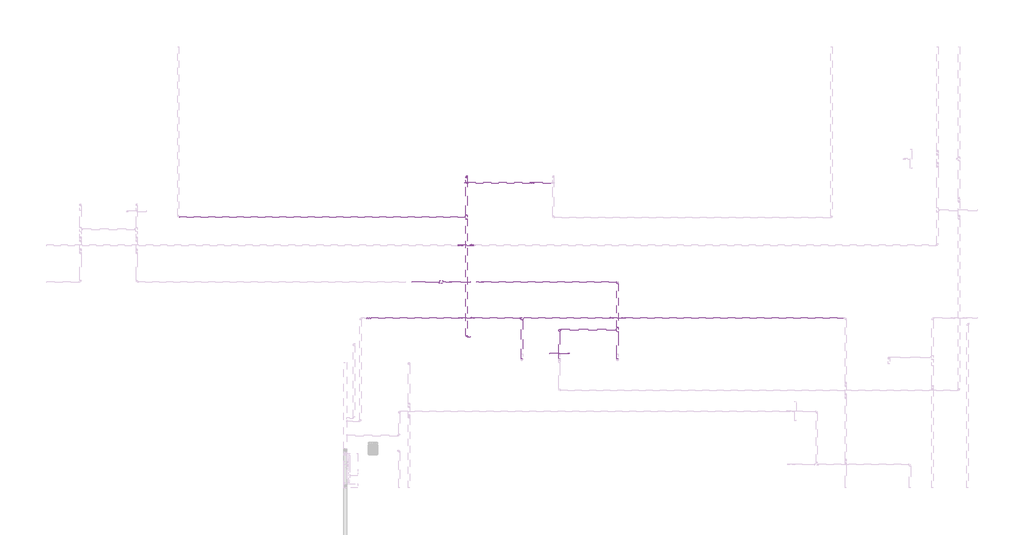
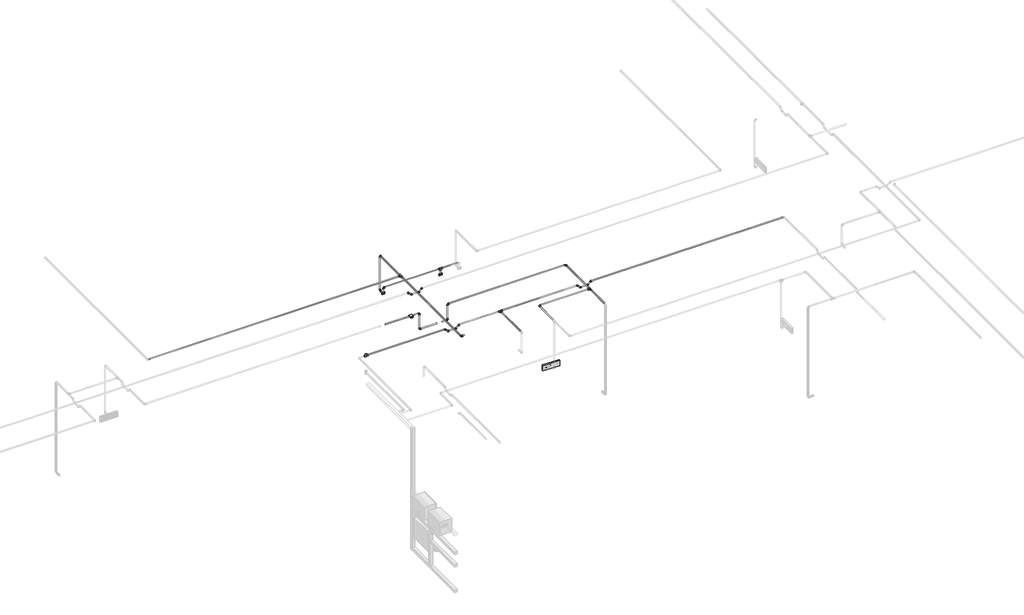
# One storey, part 21 of 40: 35 cable carrier segments, 27 cable carrier fittings, 2 alarms, 2 electric appliances.
"""IFC4 building model written with IfcOpenShell, lengths in millimetres."""

from ifc_helpers import new_model, si_unit, point, frame, frame_2d, origin, place, context, project, spatial, circle_curve, trimmed, segment, composite_curve, outline, extrude, transform, mapped, element, save
from components import alarm_4b7e8fd8, alarm_a2247946, cable_carrier_fitting_69f1a801, cable_carrier_fitting_8122f9af, cable_carrier_fitting_4b51b220, cable_carrier_fitting_71b1b563, cable_carrier_fitting_8fd13dfc, electric_appliance_5961a143

model = new_model("IFC4")

# Units and contexts
model_context = context("Model", 3, world=origin())
ifc_project = project(units=[si_unit("LENGTHUNIT", "METRE", prefix="MILLI")], contexts=[model_context])

# Site, building, storey
site = spatial("IfcSite", under=ifc_project)
building = spatial("IfcBuilding", under=site)
storey = spatial("IfcBuildingStorey", under=building, Name="1 этаж", Elevation=0.0)

# Alarms
placement = place(None, origin())
alarm_shape = alarm_4b7e8fd8(model_context)
element("IfcAlarm", 1, ObjectType="RBZ_Оповещатель_Световой_Рубеж_ОПОП1-R3(грань) : ОПОП 1-R3 \"Выход\"", at=placement, inside=storey, context=model_context, shape_type="MappedRepresentation", body=[
    mapped(alarm_shape, transform((-19837.3240021, 4024.6370105, 2300.0), x_axis=(-1.0, 0.0, 0.0), y_axis=(0.0, 0.0, 1.0), z_axis=(0.0, 1.0, 0.0))),
])
alarm_2_shape = alarm_a2247946(model_context)
element("IfcAlarm", 2, ObjectType="RBZ_ИзоляторШлейфа_Рубеж_ИЗ-1_прот.R3(плоскость) : ИЗ-1 прот.R3", at=placement, inside=storey, context=model_context, shape_type="MappedRepresentation", body=[
    mapped(alarm_2_shape, transform((-21669.8240021, 5139.5658748, 3200.75), x_axis=(1.0, 0.0, 0.0), y_axis=(0.0, 1.0, 0.0), z_axis=(0.0, 0.0, 1.0))),
])

# Cable carrier fittings
cable_carrier_fitting_shape = cable_carrier_fitting_69f1a801(model_context)
element("IfcCableCarrierFitting", 3, ObjectType="ADSK_Поворот_Минимальный размер : Неспецифицируемый", at=placement, inside=storey, context=model_context, shape_type="MappedRepresentation", body=[
    mapped(cable_carrier_fitting_shape, transform((-21523.5238077, 5139.5658748, 2891.5753772), x_axis=(-1.0, 0.0, 0.0), y_axis=(0.0, 0.0, 1.0), z_axis=(0.0, 1.0, 0.0))),
])
element("IfcCableCarrierFitting", 4, ObjectType="ADSK_Поворот_Минимальный размер : Неспецифицируемый", at=placement, inside=storey, context=model_context, shape_type="MappedRepresentation", body=[
    mapped(cable_carrier_fitting_shape, transform((-21523.5238077, 5139.5658748, 3190.0), x_axis=(0.0, 0.0, 1.0), y_axis=(-1.0, 0.0, 0.0), z_axis=(0.0, -1.0, 0.0))),
])
element("IfcCableCarrierFitting", 5, ObjectType="ADSK_Поворот_Минимальный размер : Неспецифицируемый", at=placement, inside=storey, context=model_context, shape_type="MappedRepresentation", body=[
    mapped(cable_carrier_fitting_shape, transform((-21026.1241965, 5139.5658748, 2891.5753772), x_axis=(1.0, 0.0, 0.0), y_axis=(0.0, 0.0, 1.0), z_axis=(0.0, -1.0, 0.0))),
])
element("IfcCableCarrierFitting", 6, ObjectType="ADSK_Поворот_Минимальный размер : Неспецифицируемый", at=placement, inside=storey, context=model_context, shape_type="MappedRepresentation", body=[
    mapped(cable_carrier_fitting_shape, transform((-18937.3240021, 5139.5658748, 3189.2500781), x_axis=(0.0, 1.0, 0.0), y_axis=(-0.9999999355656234, 0.0, 0.00035898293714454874), z_axis=(0.00035898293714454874, 0.0, 0.9999999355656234))),
])
element("IfcCableCarrierFitting", 7, ObjectType="ADSK_Поворот_Минимальный размер : Неспецифицируемый", at=placement, inside=storey, context=model_context, shape_type="MappedRepresentation", body=[
    mapped(cable_carrier_fitting_shape, transform((-21272.3240021, 6678.6370105, 2650.0), x_axis=(0.0, 0.0, 1.0), y_axis=(1.0, 0.0, 0.0), z_axis=(0.0, 1.0, 0.0))),
])
element("IfcCableCarrierFitting", 8, ObjectType="ADSK_Поворот_Минимальный размер : Неспецифицируемый", at=placement, inside=storey, context=model_context, shape_type="MappedRepresentation", body=[
    mapped(cable_carrier_fitting_shape, transform((-21272.3240021, 6778.8368161, 2534.0911237), x_axis=(0.0, 1.0, 0.0), y_axis=(0.0, 0.0, 1.0), z_axis=(1.0, 0.0, 0.0))),
])
element("IfcCableCarrierFitting", 9, ObjectType="ADSK_Поворот_Минимальный размер : Неспецифицируемый", at=placement, inside=storey, context=model_context, shape_type="MappedRepresentation", body=[
    mapped(cable_carrier_fitting_shape, transform((-21272.3240021, 6778.8368161, 3187.0), x_axis=(0.0, 0.0, 1.0), y_axis=(0.0, -1.0, 0.0), z_axis=(1.0, 0.0, 0.0))),
])
element("IfcCableCarrierFitting", 10, ObjectType="ADSK_Поворот_Минимальный размер : Неспецифицируемый", at=placement, inside=storey, context=model_context, shape_type="MappedRepresentation", body=[
    mapped(cable_carrier_fitting_shape, transform((-21272.3240021, 4289.6370105, 3187.0), x_axis=(0.0, -1.0, 0.0), y_axis=(1.0, 0.0, 0.0), z_axis=(0.0, 0.0, 1.0))),
])
cable_carrier_fitting_2_shape = cable_carrier_fitting_8122f9af(model_context)
element("IfcCableCarrierFitting", 11, ObjectType="ADSK_Поворот_Минимальный размер : Неспецифицируемый", at=placement, inside=storey, context=model_context, shape_type="MappedRepresentation", body=[
    mapped(cable_carrier_fitting_2_shape, transform((-21388.8962734, 5709.6370105, 3180.0), x_axis=(1.0, 0.0, 0.0), y_axis=(0.0, 0.0, -1.0), z_axis=(0.0, 1.0, 0.0))),
])
element("IfcCableCarrierFitting", 12, ObjectType="ADSK_Поворот_Минимальный размер : Неспецифицируемый", at=placement, inside=storey, context=model_context, shape_type="MappedRepresentation", body=[
    mapped(cable_carrier_fitting_2_shape, transform((-21338.8962734, 5709.6370105, 3130.0), x_axis=(0.707106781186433, 0.0, -0.7071067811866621), y_axis=(0.7071067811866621, 0.0, 0.707106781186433), z_axis=(0.0, -1.0, 0.0))),
])
element("IfcCableCarrierFitting", 13, ObjectType="ADSK_Поворот_Минимальный размер : Неспецифицируемый", at=placement, inside=storey, context=model_context, shape_type="MappedRepresentation", body=[
    mapped(cable_carrier_fitting_2_shape, transform((-21205.7517309, 5709.6370105, 3130.0), x_axis=(1.0, 0.0, 0.0), y_axis=(0.0, 0.0, 1.0), z_axis=(0.0, -1.0, 0.0))),
])
element("IfcCableCarrierFitting", 14, ObjectType="ADSK_Поворот_Минимальный размер : Неспецифицируемый", at=placement, inside=storey, context=model_context, shape_type="MappedRepresentation", body=[
    mapped(cable_carrier_fitting_2_shape, transform((-18870.7517309, 4582.0798551, 3130.0), x_axis=(-0.7071067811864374, 0.0, -0.7071067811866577), y_axis=(-0.7071067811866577, 0.0, 0.7071067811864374), z_axis=(0.0, 1.0, 0.0))),
])
element("IfcCableCarrierFitting", 15, ObjectType="ADSK_Поворот_Минимальный размер : Неспецифицируемый", at=placement, inside=storey, context=model_context, shape_type="MappedRepresentation", body=[
    mapped(cable_carrier_fitting_2_shape, transform((-19003.8962734, 4582.0798551, 3130.0), x_axis=(-1.0, 0.0, 0.0), y_axis=(0.0, 0.0, 1.0), z_axis=(0.0, 1.0, 0.0))),
])
element("IfcCableCarrierFitting", 16, ObjectType="ADSK_Поворот_Минимальный размер : Неспецифицируемый", at=placement, inside=storey, context=model_context, shape_type="MappedRepresentation", body=[
    mapped(cable_carrier_fitting_2_shape, transform((-19053.8962734, 4582.0798551, 3180.0), x_axis=(-0.707106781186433, 0.0, 0.7071067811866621), y_axis=(-0.7071067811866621, 0.0, -0.707106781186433), z_axis=(0.0, -1.0, 0.0))),
])
element("IfcCableCarrierFitting", 17, ObjectType="ADSK_Поворот_Минимальный размер : Неспецифицируемый", at=placement, inside=storey, context=model_context, shape_type="MappedRepresentation", body=[
    mapped(cable_carrier_fitting_2_shape, transform((-21155.7517309, 4582.0798551, 3180.0), x_axis=(-1.0, 0.0, 0.0), y_axis=(0.0, 0.0, -1.0), z_axis=(0.0, -1.0, 0.0))),
])
element("IfcCableCarrierFitting", 18, ObjectType="ADSK_Поворот_Минимальный размер : Неспецифицируемый", at=placement, inside=storey, context=model_context, shape_type="MappedRepresentation", body=[
    mapped(cable_carrier_fitting_2_shape, transform((-21205.7517309, 4582.0798551, 3130.0), x_axis=(-0.7071067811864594, 0.0, -0.7071067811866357), y_axis=(-0.7071067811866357, 0.0, 0.7071067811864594), z_axis=(0.0, 1.0, 0.0))),
])
element("IfcCableCarrierFitting", 19, ObjectType="ADSK_Поворот_Минимальный размер : Неспецифицируемый", at=placement, inside=storey, context=model_context, shape_type="MappedRepresentation", body=[
    mapped(cable_carrier_fitting_2_shape, transform((-21338.8962734, 4582.0798551, 3130.0), x_axis=(-1.0, 0.0, 0.0), y_axis=(0.0, 0.0, 1.0), z_axis=(0.0, 1.0, 0.0))),
])
element("IfcCableCarrierFitting", 20, ObjectType="ADSK_Поворот_Минимальный размер : Неспецифицируемый", at=placement, inside=storey, context=model_context, shape_type="MappedRepresentation", body=[
    mapped(cable_carrier_fitting_2_shape, transform((-21388.8962734, 4582.0798551, 3180.0), x_axis=(-0.7071067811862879, 0.0, 0.7071067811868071), y_axis=(-0.7071067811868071, 0.0, -0.7071067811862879), z_axis=(0.0, -1.0, 0.0))),
])
element("IfcCableCarrierFitting", 21, ObjectType="ADSK_Поворот_Минимальный размер : Неспецифицируемый", at=placement, inside=storey, context=model_context, shape_type="MappedRepresentation", body=[
    mapped(cable_carrier_fitting_2_shape, transform((-18820.7517309, 4582.0798551, 3180.0), x_axis=(0.7071067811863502, 0.0, 0.7071067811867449), y_axis=(0.7071067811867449, 0.0, -0.7071067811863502), z_axis=(0.0, 1.0, 0.0))),
])
element("IfcCableCarrierFitting", 22, ObjectType="ADSK_Поворот_Минимальный размер : Неспецифицируемый", at=placement, inside=storey, context=model_context, shape_type="MappedRepresentation", body=[
    mapped(cable_carrier_fitting_2_shape, transform((-21155.7517309, 5709.6370105, 3180.0), x_axis=(0.7071067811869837, 0.0, 0.7071067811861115), y_axis=(0.7071067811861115, 0.0, -0.7071067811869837), z_axis=(0.0, 1.0, 0.0))),
])
cable_carrier_fitting_3_shape = cable_carrier_fitting_4b51b220(model_context)
element("IfcCableCarrierFitting", 23, ObjectType="ADSK_Поворот_Минимальный размер : Неспецифицируемый", at=placement, inside=storey, context=model_context, shape_type="MappedRepresentation", body=[
    mapped(cable_carrier_fitting_3_shape, transform((-21026.1241965, 5139.5658748, 3190.0), x_axis=(0.0, 0.0, 1.0), y_axis=(1.0, 0.0, 0.0), z_axis=(0.0, 1.0, 0.0))),
])
cable_carrier_fitting_4_shape = cable_carrier_fitting_71b1b563(model_context)
element("IfcCableCarrierFitting", 24, ObjectType="ADSK_Поворот_Минимальный размер : Неспецифицируемый", at=placement, inside=storey, context=model_context, shape_type="MappedRepresentation", body=[
    mapped(cable_carrier_fitting_4_shape, transform((-19837.3240021, 4402.1370105, 3189.541104), x_axis=(-0.999999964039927, 0.0, 0.0002681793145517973), y_axis=(-4.464283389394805e-08, -0.9999999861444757, -0.00016646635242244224), z_axis=(0.0002681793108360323, -0.00016646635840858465, 0.9999999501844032))),
])
cable_carrier_fitting_5_shape = cable_carrier_fitting_8fd13dfc(model_context)
element("IfcCableCarrierFitting", 25, ObjectType="ADSK_Тройник : ПВХ", at=placement, inside=storey, context=model_context, shape_type="MappedRepresentation", body=[
    mapped(cable_carrier_fitting_5_shape, transform((-18937.3240021, 4402.1370105, 3189.3000027), x_axis=(0.0, -0.9999999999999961, -8.916462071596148e-08), y_axis=(0.9999999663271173, 2.313916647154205e-11, -0.00025951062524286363), z_axis=(0.00025951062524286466, -8.916461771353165e-08, 0.9999999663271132))),
])
element("IfcCableCarrierFitting", 26, ObjectType="ADSK_Тройник : ПВХ", at=placement, inside=storey, context=model_context, shape_type="MappedRepresentation", body=[
    mapped(cable_carrier_fitting_5_shape, transform((-20262.3240021, 6678.6370105, 2650.0), x_axis=(1.0, 0.0, 0.0), y_axis=(0.0, 0.0, 1.0), z_axis=(0.0, -1.0, 0.0))),
])
element("IfcCableCarrierFitting", 27, ObjectType="ADSK_Тройник : ПВХ", at=placement, inside=storey, context=model_context, shape_type="MappedRepresentation", body=[
    mapped(cable_carrier_fitting_5_shape, transform((-21272.3240021, 6147.38701, 3187.0), x_axis=(0.0, -1.0, 0.0), y_axis=(1.0, 0.0, 0.0), z_axis=(0.0, 0.0, 1.0))),
])
element("IfcCableCarrierFitting", 28, ObjectType="ADSK_Тройник : ПВХ", at=placement, inside=storey, context=model_context, shape_type="MappedRepresentation", body=[
    mapped(cable_carrier_fitting_5_shape, transform((-20414.8240021, 4582.0798551, 3180.0), x_axis=(1.0, 0.0, 0.0), y_axis=(0.0, 1.0, 0.0), z_axis=(0.0, 0.0, 1.0))),
])
element("IfcCableCarrierFitting", 29, ObjectType="ADSK_Тройник : ПВХ", at=placement, inside=storey, context=model_context, shape_type="MappedRepresentation", body=[
    mapped(cable_carrier_fitting_5_shape, transform((-22786.859707, 4582.0798551, 3180.0), x_axis=(-1.0, 0.0, 0.0), y_axis=(0.0, 0.0, -1.0), z_axis=(0.0, -1.0, 0.0))),
])

# Cable carrier segments
element("IfcCableCarrierSegment", 30, ObjectType="Гофрированная труба", at=placement, inside=storey, context=model_context, shape_type="SweptSolid", body=[
    extrude(outline(composite_curve([segment(trimmed(circle_curve(frame_2d((3189.3000053, -18937.3240021)), 10.0), [point((3189.2974102, -18927.3240024))], [point((3199.300005, -18937.321407))], False, "CARTESIAN"), True, "CONTINUOUS"), segment(trimmed(circle_curve(frame_2d((3189.3000053, -18937.3240021)), 10.0), [point((3199.300005, -18937.321407))], [point((3189.3026005, -18947.3240018))], False, "CARTESIAN"), True, "CONTINUOUS"), segment(trimmed(circle_curve(frame_2d((3189.3000053, -18937.3240021)), 10.0), [point((3189.3026005, -18947.3240018))], [point((3179.3000057, -18937.3265972))], False, "CARTESIAN"), True, "CONTINUOUS"), segment(trimmed(circle_curve(frame_2d((3189.3000053, -18937.3240021)), 10.0), [point((3179.3000057, -18937.3265972))], [point((3189.2974102, -18927.3240024))], False, "CARTESIAN"), True, "CONTINUOUS")], self_intersect=False)), frame((0.0, 4432.1370105, 0.0), z_axis=(0.0, 1.0, 0.0), x_axis=(0.0, 0.0, 1.0)), (0.0, 0.0, 1.0), 686.4288642),
])
element("IfcCableCarrierSegment", 31, ObjectType="Гофрированная труба", at=placement, inside=storey, context=model_context, shape_type="SweptSolid", body=[
    extrude(outline(composite_curve([segment(trimmed(circle_curve(frame_2d((5139.5658748, 3190.0)), 10.0), [point((5149.5658748, 3190.0))], [point((5139.5658748, 3180.0))], False, "CARTESIAN"), True, "CONTINUOUS"), segment(trimmed(circle_curve(frame_2d((5139.5658748, 3190.0)), 10.0), [point((5139.5658748, 3180.0))], [point((5129.5658748, 3190.0))], False, "CARTESIAN"), True, "CONTINUOUS"), segment(trimmed(circle_curve(frame_2d((5139.5658748, 3190.0)), 10.0), [point((5129.5658748, 3190.0))], [point((5139.5658748, 3200.0))], False, "CARTESIAN"), True, "CONTINUOUS"), segment(trimmed(circle_curve(frame_2d((5139.5658748, 3190.0)), 10.0), [point((5139.5658748, 3200.0))], [point((5149.5658748, 3190.0))], False, "CARTESIAN"), True, "CONTINUOUS")], self_intersect=False)), frame((-22123.3740021, 0.0, 0.0), z_axis=(1.0, 0.0, 0.0), x_axis=(0.0, 1.0, 0.0)), (0.0, 0.0, 1.0), 427.55),
])
element("IfcCableCarrierSegment", 32, ObjectType="Гофрированная труба", at=placement, inside=storey, context=model_context, shape_type="SweptSolid", body=[
    extrude(outline(composite_curve([segment(trimmed(circle_curve(frame_2d((5139.5658748, 3190.0)), 10.0), [point((5149.5658748, 3190.0))], [point((5139.5658748, 3180.0))], False, "CARTESIAN"), True, "CONTINUOUS"), segment(trimmed(circle_curve(frame_2d((5139.5658748, 3190.0)), 10.0), [point((5139.5658748, 3180.0))], [point((5129.5658748, 3190.0))], False, "CARTESIAN"), True, "CONTINUOUS"), segment(trimmed(circle_curve(frame_2d((5139.5658748, 3190.0)), 10.0), [point((5129.5658748, 3190.0))], [point((5139.5658748, 3200.0))], False, "CARTESIAN"), True, "CONTINUOUS"), segment(trimmed(circle_curve(frame_2d((5139.5658748, 3190.0)), 10.0), [point((5139.5658748, 3200.0))], [point((5149.5658748, 3190.0))], False, "CARTESIAN"), True, "CONTINUOUS")], self_intersect=False)), frame((-21643.8240021, 0.0, 0.0), z_axis=(1.0, 0.0, 0.0), x_axis=(0.0, 1.0, 0.0)), (0.0, 0.0, 1.0), 99.3001944),
])
element("IfcCableCarrierSegment", 33, ObjectType="Гофрированная труба", at=placement, inside=storey, context=model_context, shape_type="SweptSolid", body=[
    extrude(outline(composite_curve([segment(trimmed(circle_curve(frame_2d((-21523.5238077, 5139.5658748)), 10.0), [point((-21533.5238077, 5139.5658748))], [point((-21523.5238077, 5149.5658748))], False, "CARTESIAN"), True, "CONTINUOUS"), segment(trimmed(circle_curve(frame_2d((-21523.5238077, 5139.5658748)), 10.0), [point((-21523.5238077, 5149.5658748))], [point((-21513.5238077, 5139.5658748))], False, "CARTESIAN"), True, "CONTINUOUS"), segment(trimmed(circle_curve(frame_2d((-21523.5238077, 5139.5658748)), 10.0), [point((-21513.5238077, 5139.5658748))], [point((-21523.5238077, 5129.5658748))], False, "CARTESIAN"), True, "CONTINUOUS"), segment(trimmed(circle_curve(frame_2d((-21523.5238077, 5139.5658748)), 10.0), [point((-21523.5238077, 5129.5658748))], [point((-21533.5238077, 5139.5658748))], False, "CARTESIAN"), True, "CONTINUOUS")], self_intersect=False)), frame((0.0, 0.0, 2912.5753772), z_axis=(0.0, 0.0, 1.0), x_axis=(1.0, 0.0, 0.0)), (0.0, 0.0, 1.0), 256.4246228),
])
element("IfcCableCarrierSegment", 34, ObjectType="Гофрированная труба", at=placement, inside=storey, context=model_context, shape_type="SweptSolid", body=[
    extrude(outline(composite_curve([segment(trimmed(circle_curve(frame_2d((0.0, -10.0)), 10.0), [point((-10.0, -10.0))], [point((0.0, 0.0))], False, "CARTESIAN"), True, "CONTINUOUS"), segment(trimmed(circle_curve(frame_2d((0.0, -10.0)), 10.0), [point((0.0, 0.0))], [point((10.0, -10.0))], False, "CARTESIAN"), True, "CONTINUOUS"), segment(trimmed(circle_curve(frame_2d((0.0, -10.0)), 10.0), [point((10.0, -10.0))], [point((0.0, -20.0))], False, "CARTESIAN"), True, "CONTINUOUS"), segment(trimmed(circle_curve(frame_2d((0.0, -10.0)), 10.0), [point((0.0, -20.0))], [point((-10.0, -10.0))], False, "CARTESIAN"), True, "CONTINUOUS")], self_intersect=False)), frame((-18958.3275906, 5139.5658748, 3179.2576174), z_axis=(-0.9999999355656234, 0.0, 0.00035898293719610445), x_axis=(0.0, 1.0, 0.0)), (0.0, 0.0, 1.0), 2046.7930736),
])
element("IfcCableCarrierSegment", 35, ObjectType="Гофрированная труба", at=placement, inside=storey, context=model_context, shape_type="SweptSolid", body=[
    extrude(outline(composite_curve([segment(trimmed(circle_curve(frame_2d((5139.5658748, 2891.5753772)), 10.0), [point((5129.5658748, 2891.5753772))], [point((5139.5658748, 2901.5753772))], False, "CARTESIAN"), True, "CONTINUOUS"), segment(trimmed(circle_curve(frame_2d((5139.5658748, 2891.5753772)), 10.0), [point((5139.5658748, 2901.5753772))], [point((5149.5658748, 2891.5753772))], False, "CARTESIAN"), True, "CONTINUOUS"), segment(trimmed(circle_curve(frame_2d((5139.5658748, 2891.5753772)), 10.0), [point((5149.5658748, 2891.5753772))], [point((5139.5658748, 2881.5753772))], False, "CARTESIAN"), True, "CONTINUOUS"), segment(trimmed(circle_curve(frame_2d((5139.5658748, 2891.5753772)), 10.0), [point((5139.5658748, 2881.5753772))], [point((5129.5658748, 2891.5753772))], False, "CARTESIAN"), True, "CONTINUOUS")], self_intersect=False)), frame((-21123.3240021, 0.0, 0.0), z_axis=(1.0, 0.0, 0.0), x_axis=(0.0, 1.0, 0.0)), (0.0, 0.0, 1.0), 76.1998056),
])
element("IfcCableCarrierSegment", 36, ObjectType="Гофрированная труба", at=placement, inside=storey, context=model_context, shape_type="SweptSolid", body=[
    extrude(outline(composite_curve([segment(trimmed(circle_curve(frame_2d((-21026.1241965, 5139.5658748)), 10.0), [point((-21036.1241965, 5139.5658748))], [point((-21026.1241965, 5149.5658748))], False, "CARTESIAN"), True, "CONTINUOUS"), segment(trimmed(circle_curve(frame_2d((-21026.1241965, 5139.5658748)), 10.0), [point((-21026.1241965, 5149.5658748))], [point((-21016.1241965, 5139.5658748))], False, "CARTESIAN"), True, "CONTINUOUS"), segment(trimmed(circle_curve(frame_2d((-21026.1241965, 5139.5658748)), 10.0), [point((-21016.1241965, 5139.5658748))], [point((-21026.1241965, 5129.5658748))], False, "CARTESIAN"), True, "CONTINUOUS"), segment(trimmed(circle_curve(frame_2d((-21026.1241965, 5139.5658748)), 10.0), [point((-21026.1241965, 5129.5658748))], [point((-21036.1241965, 5139.5658748))], False, "CARTESIAN"), True, "CONTINUOUS")], self_intersect=False)), frame((0.0, 0.0, 2912.5753772), z_axis=(0.0, 0.0, 1.0), x_axis=(1.0, 0.0, 0.0)), (0.0, 0.0, 1.0), 256.4173674),
])
element("IfcCableCarrierSegment", 37, ObjectType="Гофрированная труба", at=placement, inside=storey, context=model_context, shape_type="SweptSolid", body=[
    extrude(outline(composite_curve([segment(trimmed(circle_curve(frame_2d((0.0, -10.0)), 10.0), [point((-10.0, -10.0))], [point((0.0, 0.0))], False, "CARTESIAN"), True, "CONTINUOUS"), segment(trimmed(circle_curve(frame_2d((0.0, -10.0)), 10.0), [point((0.0, 0.0))], [point((10.0, -10.0))], False, "CARTESIAN"), True, "CONTINUOUS"), segment(trimmed(circle_curve(frame_2d((0.0, -10.0)), 10.0), [point((10.0, -10.0))], [point((0.0, -19.9999999))], False, "CARTESIAN"), True, "CONTINUOUS"), segment(trimmed(circle_curve(frame_2d((0.0, -10.0)), 10.0), [point((0.0, -19.9999999))], [point((-10.0, -10.0))], False, "CARTESIAN"), True, "CONTINUOUS")], self_intersect=False)), frame((-18967.3266829, 4402.1370105, 3179.3077884), z_axis=(-0.999999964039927, 0.0, 0.0002681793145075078), x_axis=(0.0, 1.0, 0.0)), (0.0, 0.0, 1.0), 849.0000314),
])
element("IfcCableCarrierSegment", 38, ObjectType="Гофрированная труба", at=placement, inside=storey, context=model_context, shape_type="SweptSolid", body=[
    extrude(outline(composite_curve([segment(trimmed(circle_curve(frame_2d((5139.5658748, 2891.5753772)), 10.0), [point((5129.5658748, 2891.5753772))], [point((5139.5658748, 2901.5753772))], False, "CARTESIAN"), True, "CONTINUOUS"), segment(trimmed(circle_curve(frame_2d((5139.5658748, 2891.5753772)), 10.0), [point((5139.5658748, 2901.5753772))], [point((5149.5658748, 2891.5753772))], False, "CARTESIAN"), True, "CONTINUOUS"), segment(trimmed(circle_curve(frame_2d((5139.5658748, 2891.5753772)), 10.0), [point((5149.5658748, 2891.5753772))], [point((5139.5658748, 2881.5753772))], False, "CARTESIAN"), True, "CONTINUOUS"), segment(trimmed(circle_curve(frame_2d((5139.5658748, 2891.5753772)), 10.0), [point((5139.5658748, 2881.5753772))], [point((5129.5658748, 2891.5753772))], False, "CARTESIAN"), True, "CONTINUOUS")], self_intersect=False)), frame((-21502.5238077, 0.0, 0.0), z_axis=(1.0, 0.0, 0.0), x_axis=(0.0, 1.0, 0.0)), (0.0, 0.0, 1.0), 286.1998056),
])
element("IfcCableCarrierSegment", 39, ObjectType="Гофрированная труба", at=placement, inside=storey, context=model_context, shape_type="SweptSolid", body=[
    extrude(outline(composite_curve([segment(trimmed(circle_curve(frame_2d((0.0, 10.0)), 10.0), [point((0.0, 20.0))], [point((10.0000001, 10.0))], False, "CARTESIAN"), True, "CONTINUOUS"), segment(trimmed(circle_curve(frame_2d((0.0, 10.0)), 10.0), [point((10.0000001, 10.0))], [point((0.0, 0.0))], False, "CARTESIAN"), True, "CONTINUOUS"), segment(trimmed(circle_curve(frame_2d((0.0, 10.0)), 10.0), [point((0.0, 0.0))], [point((-10.0, 10.0))], False, "CARTESIAN"), True, "CONTINUOUS"), segment(trimmed(circle_curve(frame_2d((0.0, 10.0)), 10.0), [point((-10.0, 10.0))], [point((0.0, 20.0))], False, "CARTESIAN"), True, "CONTINUOUS")], self_intersect=False)), frame((-19847.3240021, 3957.4372042, 3189.4423893), z_axis=(0.0, 0.9999999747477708, 0.00022473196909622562), x_axis=(0.0, -0.00022473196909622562, 0.9999999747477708)), (0.0, 0.0, 1.0), 423.6998165),
])
element("IfcCableCarrierSegment", 40, ObjectType="Гофрированная труба", at=placement, inside=storey, context=model_context, shape_type="SweptSolid", body=[
    extrude(outline(composite_curve([segment(trimmed(circle_curve(frame_2d((-21272.3240021, 6678.6370105)), 10.0), [point((-21282.3240021, 6678.6370105))], [point((-21272.3240021, 6688.6370105))], False, "CARTESIAN"), True, "CONTINUOUS"), segment(trimmed(circle_curve(frame_2d((-21272.3240021, 6678.6370105)), 10.0), [point((-21272.3240021, 6688.6370105))], [point((-21262.3240021, 6678.6370105))], False, "CARTESIAN"), True, "CONTINUOUS"), segment(trimmed(circle_curve(frame_2d((-21272.3240021, 6678.6370105)), 10.0), [point((-21262.3240021, 6678.6370105))], [point((-21272.3240021, 6668.6370105))], False, "CARTESIAN"), True, "CONTINUOUS"), segment(trimmed(circle_curve(frame_2d((-21272.3240021, 6678.6370105)), 10.0), [point((-21272.3240021, 6668.6370105))], [point((-21282.3240021, 6678.6370105))], False, "CARTESIAN"), True, "CONTINUOUS")], self_intersect=False)), frame((0.0, 0.0, 2563.1207114), z_axis=(0.0, 0.0, 1.0), x_axis=(1.0, 0.0, 0.0)), (0.0, 0.0, 1.0), 65.8792886),
])
element("IfcCableCarrierSegment", 41, ObjectType="Гофрированная труба", at=placement, inside=storey, context=model_context, shape_type="SweptSolid", body=[
    extrude(outline(composite_curve([segment(trimmed(circle_curve(frame_2d((-20262.3240021, 6678.6370105)), 10.0), [point((-20272.3240021, 6678.6370105))], [point((-20262.3240021, 6688.6370105))], False, "CARTESIAN"), True, "CONTINUOUS"), segment(trimmed(circle_curve(frame_2d((-20262.3240021, 6678.6370105)), 10.0), [point((-20262.3240021, 6688.6370105))], [point((-20252.3240021, 6678.6370105))], False, "CARTESIAN"), True, "CONTINUOUS"), segment(trimmed(circle_curve(frame_2d((-20262.3240021, 6678.6370105)), 10.0), [point((-20252.3240021, 6678.6370105))], [point((-20262.3240021, 6668.6370105))], False, "CARTESIAN"), True, "CONTINUOUS"), segment(trimmed(circle_curve(frame_2d((-20262.3240021, 6678.6370105)), 10.0), [point((-20262.3240021, 6668.6370105))], [point((-20272.3240021, 6678.6370105))], False, "CARTESIAN"), True, "CONTINUOUS")], self_intersect=False)), frame((0.0, 0.0, 2563.1207114), z_axis=(0.0, 0.0, 1.0), x_axis=(1.0, 0.0, 0.0)), (0.0, 0.0, 1.0), 56.8792886),
])
element("IfcCableCarrierSegment", 42, ObjectType="Гофрированная труба", at=placement, inside=storey, context=model_context, shape_type="SweptSolid", body=[
    extrude(outline(composite_curve([segment(trimmed(circle_curve(frame_2d((6678.6370105, 2650.0)), 10.0), [point((6688.6370105, 2650.0))], [point((6678.6370105, 2640.0))], False, "CARTESIAN"), True, "CONTINUOUS"), segment(trimmed(circle_curve(frame_2d((6678.6370105, 2650.0)), 10.0), [point((6678.6370105, 2640.0))], [point((6668.6370105, 2650.0))], False, "CARTESIAN"), True, "CONTINUOUS"), segment(trimmed(circle_curve(frame_2d((6678.6370105, 2650.0)), 10.0), [point((6668.6370105, 2650.0))], [point((6678.6370105, 2660.0))], False, "CARTESIAN"), True, "CONTINUOUS"), segment(trimmed(circle_curve(frame_2d((6678.6370105, 2650.0)), 10.0), [point((6678.6370105, 2660.0))], [point((6688.6370105, 2650.0))], False, "CARTESIAN"), True, "CONTINUOUS")], self_intersect=False)), frame((-21251.3240021, 0.0, 0.0), z_axis=(1.0, 0.0, 0.0), x_axis=(0.0, 1.0, 0.0)), (0.0, 0.0, 1.0), 959.0),
])
element("IfcCableCarrierSegment", 43, ObjectType="Гофрированная труба", at=placement, inside=storey, context=model_context, shape_type="SweptSolid", body=[
    extrude(outline(composite_curve([segment(trimmed(circle_curve(frame_2d((6678.6370105, 2650.0)), 10.0), [point((6688.6370105, 2650.0))], [point((6678.6370105, 2640.0))], False, "CARTESIAN"), True, "CONTINUOUS"), segment(trimmed(circle_curve(frame_2d((6678.6370105, 2650.0)), 10.0), [point((6678.6370105, 2640.0))], [point((6668.6370105, 2650.0))], False, "CARTESIAN"), True, "CONTINUOUS"), segment(trimmed(circle_curve(frame_2d((6678.6370105, 2650.0)), 10.0), [point((6668.6370105, 2650.0))], [point((6678.6370105, 2660.0))], False, "CARTESIAN"), True, "CONTINUOUS"), segment(trimmed(circle_curve(frame_2d((6678.6370105, 2650.0)), 10.0), [point((6678.6370105, 2660.0))], [point((6688.6370105, 2650.0))], False, "CARTESIAN"), True, "CONTINUOUS")], self_intersect=False)), frame((-20232.3240021, 0.0, 0.0), z_axis=(1.0, 0.0, 0.0), x_axis=(0.0, 1.0, 0.0)), (0.0, 0.0, 1.0), 279.0),
])
element("IfcCableCarrierSegment", 44, ObjectType="Гофрированная труба", at=placement, inside=storey, context=model_context, shape_type="SweptSolid", body=[
    extrude(outline(composite_curve([segment(trimmed(circle_curve(frame_2d((3187.0, -21272.3240021)), 10.0), [point((3187.0, -21282.3240021))], [point((3177.0, -21272.3240021))], False, "CARTESIAN"), True, "CONTINUOUS"), segment(trimmed(circle_curve(frame_2d((3187.0, -21272.3240021)), 10.0), [point((3177.0, -21272.3240021))], [point((3187.0, -21262.3240021))], False, "CARTESIAN"), True, "CONTINUOUS"), segment(trimmed(circle_curve(frame_2d((3187.0, -21272.3240021)), 10.0), [point((3187.0, -21262.3240021))], [point((3197.0, -21272.3240021))], False, "CARTESIAN"), True, "CONTINUOUS"), segment(trimmed(circle_curve(frame_2d((3187.0, -21272.3240021)), 10.0), [point((3197.0, -21272.3240021))], [point((3187.0, -21282.3240021))], False, "CARTESIAN"), True, "CONTINUOUS")], self_intersect=False)), frame((0.0, 4310.6370105, 0.0), z_axis=(0.0, 1.0, 0.0), x_axis=(0.0, 0.0, 1.0)), (0.0, 0.0, 1.0), 1806.7499995),
])
element("IfcCableCarrierSegment", 45, ObjectType="Гофрированная труба", at=placement, inside=storey, context=model_context, shape_type="SweptSolid", body=[
    extrude(outline(composite_curve([segment(trimmed(circle_curve(frame_2d((2534.0911237, -21272.3240021)), 10.0), [point((2534.0911237, -21262.3240021))], [point((2544.0911237, -21272.3240021))], False, "CARTESIAN"), True, "CONTINUOUS"), segment(trimmed(circle_curve(frame_2d((2534.0911237, -21272.3240021)), 10.0), [point((2544.0911237, -21272.3240021))], [point((2534.0911237, -21282.3240021))], False, "CARTESIAN"), True, "CONTINUOUS"), segment(trimmed(circle_curve(frame_2d((2534.0911237, -21272.3240021)), 10.0), [point((2534.0911237, -21282.3240021))], [point((2524.0911237, -21272.3240021))], False, "CARTESIAN"), True, "CONTINUOUS"), segment(trimmed(circle_curve(frame_2d((2534.0911237, -21272.3240021)), 10.0), [point((2524.0911237, -21272.3240021))], [point((2534.0911237, -21262.3240021))], False, "CARTESIAN"), True, "CONTINUOUS")], self_intersect=False)), frame((0.0, 6681.6370105, 0.0), z_axis=(0.0, 1.0, 0.0), x_axis=(0.0, 0.0, 1.0)), (0.0, 0.0, 1.0), 76.1998056),
])
element("IfcCableCarrierSegment", 46, ObjectType="Гофрированная труба", at=placement, inside=storey, context=model_context, shape_type="SweptSolid", body=[
    extrude(outline(composite_curve([segment(trimmed(circle_curve(frame_2d((-21272.3240021, 6778.8368161)), 10.0), [point((-21282.3240021, 6778.8368161))], [point((-21272.3240021, 6788.8368161))], False, "CARTESIAN"), True, "CONTINUOUS"), segment(trimmed(circle_curve(frame_2d((-21272.3240021, 6778.8368161)), 10.0), [point((-21272.3240021, 6788.8368161))], [point((-21262.3240021, 6778.8368161))], False, "CARTESIAN"), True, "CONTINUOUS"), segment(trimmed(circle_curve(frame_2d((-21272.3240021, 6778.8368161)), 10.0), [point((-21262.3240021, 6778.8368161))], [point((-21272.3240021, 6768.8368161))], False, "CARTESIAN"), True, "CONTINUOUS"), segment(trimmed(circle_curve(frame_2d((-21272.3240021, 6778.8368161)), 10.0), [point((-21272.3240021, 6768.8368161))], [point((-21282.3240021, 6778.8368161))], False, "CARTESIAN"), True, "CONTINUOUS")], self_intersect=False)), frame((0.0, 0.0, 2555.0911237), z_axis=(0.0, 0.0, 1.0), x_axis=(1.0, 0.0, 0.0)), (0.0, 0.0, 1.0), 610.9088763),
])
element("IfcCableCarrierSegment", 47, ObjectType="Гофрированная труба", at=placement, inside=storey, context=model_context, shape_type="SweptSolid", body=[
    extrude(outline(composite_curve([segment(trimmed(circle_curve(frame_2d((6147.38701, 3187.0)), 10.0), [point((6137.38701, 3187.0))], [point((6147.38701, 3197.0))], False, "CARTESIAN"), True, "CONTINUOUS"), segment(trimmed(circle_curve(frame_2d((6147.38701, 3187.0)), 10.0), [point((6147.38701, 3197.0))], [point((6157.38701, 3187.0))], False, "CARTESIAN"), True, "CONTINUOUS"), segment(trimmed(circle_curve(frame_2d((6147.38701, 3187.0)), 10.0), [point((6157.38701, 3187.0))], [point((6147.38701, 3177.0))], False, "CARTESIAN"), True, "CONTINUOUS"), segment(trimmed(circle_curve(frame_2d((6147.38701, 3187.0)), 10.0), [point((6147.38701, 3177.0))], [point((6137.38701, 3187.0))], False, "CARTESIAN"), True, "CONTINUOUS")], self_intersect=False)), frame((-25716.3231226, 0.0, 0.0), z_axis=(1.0, 0.0, 0.0), x_axis=(0.0, 1.0, 0.0)), (0.0, 0.0, 1.0), 4413.9991205),
])
element("IfcCableCarrierSegment", 48, ObjectType="Гофрированная труба", at=placement, inside=storey, context=model_context, shape_type="SweptSolid", body=[
    extrude(outline(composite_curve([segment(trimmed(circle_curve(frame_2d((0.0, -10.0)), 10.0), [point((-10.0, -10.0))], [point((0.0, 0.0))], False, "CARTESIAN"), True, "CONTINUOUS"), segment(trimmed(circle_curve(frame_2d((0.0, -10.0)), 10.0), [point((0.0, 0.0))], [point((10.0, -10.0))], False, "CARTESIAN"), True, "CONTINUOUS"), segment(trimmed(circle_curve(frame_2d((0.0, -10.0)), 10.0), [point((10.0, -10.0))], [point((0.0, -20.0))], False, "CARTESIAN"), True, "CONTINUOUS"), segment(trimmed(circle_curve(frame_2d((0.0, -10.0)), 10.0), [point((0.0, -20.0))], [point((-10.0, -10.0))], False, "CARTESIAN"), True, "CONTINUOUS")], self_intersect=False)), frame((-21251.3240021, 4289.6370105, 3177.0), z_axis=(1.0, 0.0, 1.2994405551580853e-12), x_axis=(0.0, -1.0, 0.0)), (0.0, 0.0, 1.0), 31.55),
])
element("IfcCableCarrierSegment", 49, ObjectType="Гофрированная труба", at=placement, inside=storey, context=model_context, shape_type="SweptSolid", body=[
    extrude(outline(composite_curve([segment(trimmed(circle_curve(frame_2d((3187.0, -21272.3240021)), 10.0), [point((3187.0, -21282.3240021))], [point((3177.0, -21272.3240021))], False, "CARTESIAN"), True, "CONTINUOUS"), segment(trimmed(circle_curve(frame_2d((3187.0, -21272.3240021)), 10.0), [point((3177.0, -21272.3240021))], [point((3187.0, -21262.3240021))], False, "CARTESIAN"), True, "CONTINUOUS"), segment(trimmed(circle_curve(frame_2d((3187.0, -21272.3240021)), 10.0), [point((3187.0, -21262.3240021))], [point((3197.0, -21272.3240021))], False, "CARTESIAN"), True, "CONTINUOUS"), segment(trimmed(circle_curve(frame_2d((3187.0, -21272.3240021)), 10.0), [point((3197.0, -21272.3240021))], [point((3187.0, -21282.3240021))], False, "CARTESIAN"), True, "CONTINUOUS")], self_intersect=False)), frame((0.0, 6177.38701, 0.0), z_axis=(0.0, 1.0, 0.0), x_axis=(0.0, 0.0, 1.0)), (0.0, 0.0, 1.0), 580.4498061),
])
element("IfcCableCarrierSegment", 50, ObjectType="Гофрированная труба", at=placement, inside=storey, context=model_context, shape_type="SweptSolid", body=[
    extrude(outline(composite_curve([segment(trimmed(circle_curve(frame_2d((0.0, 10.0)), 10.0), [point((-10.0, 10.0))], [point((0.0, 20.0))], False, "CARTESIAN"), True, "CONTINUOUS"), segment(trimmed(circle_curve(frame_2d((0.0, 10.0)), 10.0), [point((0.0, 20.0))], [point((10.0, 10.0))], False, "CARTESIAN"), True, "CONTINUOUS"), segment(trimmed(circle_curve(frame_2d((0.0, 10.0)), 10.0), [point((10.0, 10.0))], [point((0.0, 0.0))], False, "CARTESIAN"), True, "CONTINUOUS"), segment(trimmed(circle_curve(frame_2d((0.0, 10.0)), 10.0), [point((0.0, 0.0))], [point((-10.0, 10.0))], False, "CARTESIAN"), True, "CONTINUOUS")], self_intersect=False)), frame((-21329.6120021, 5709.6370105, 3120.0), z_axis=(1.0, 0.0, 4.764615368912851e-12), x_axis=(0.0, 1.0, 0.0)), (0.0, 0.0, 1.0), 114.576),
])
element("IfcCableCarrierSegment", 51, ObjectType="Гофрированная труба", at=placement, inside=storey, context=model_context, shape_type="SweptSolid", body=[
    extrude(outline(composite_curve([segment(trimmed(circle_curve(frame_2d((0.0, -10.0)), 10.0), [point((0.0, -20.0))], [point((-10.0000001, -10.0))], False, "CARTESIAN"), True, "CONTINUOUS"), segment(trimmed(circle_curve(frame_2d((0.0, -10.0)), 10.0), [point((-10.0000001, -10.0))], [point((0.0, 0.0))], False, "CARTESIAN"), True, "CONTINUOUS"), segment(trimmed(circle_curve(frame_2d((0.0, -10.0)), 10.0), [point((0.0, 0.0))], [point((10.0, -10.0))], False, "CARTESIAN"), True, "CONTINUOUS"), segment(trimmed(circle_curve(frame_2d((0.0, -10.0)), 10.0), [point((10.0, -10.0))], [point((0.0, -20.0))], False, "CARTESIAN"), True, "CONTINUOUS")], self_intersect=False)), frame((-21345.4612445, 5719.6370105, 3136.5649712), z_axis=(-0.7071067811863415, 0.0, 0.7071067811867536), x_axis=(0.7071067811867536, 0.0, 0.7071067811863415)), (0.0, 0.0, 1.0), 52.1421356),
])
element("IfcCableCarrierSegment", 52, ObjectType="Гофрированная труба", at=placement, inside=storey, context=model_context, shape_type="SweptSolid", body=[
    extrude(outline(composite_curve([segment(trimmed(circle_curve(frame_2d((0.0, 10.0)), 10.0), [point((0.0, 0.0))], [point((-10.0, 10.0))], False, "CARTESIAN"), True, "CONTINUOUS"), segment(trimmed(circle_curve(frame_2d((0.0, 10.0)), 10.0), [point((-10.0, 10.0))], [point((0.0, 20.0))], False, "CARTESIAN"), True, "CONTINUOUS"), segment(trimmed(circle_curve(frame_2d((0.0, 10.0)), 10.0), [point((0.0, 20.0))], [point((10.0000001, 10.0))], False, "CARTESIAN"), True, "CONTINUOUS"), segment(trimmed(circle_curve(frame_2d((0.0, 10.0)), 10.0), [point((10.0000001, 10.0))], [point((0.0, 0.0))], False, "CARTESIAN"), True, "CONTINUOUS")], self_intersect=False)), frame((-21199.1867597, 5699.6370105, 3136.5649712), z_axis=(0.7071067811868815, 0.0, 0.7071067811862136), x_axis=(0.7071067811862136, 0.0, -0.7071067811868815)), (0.0, 0.0, 1.0), 52.1421356),
])
element("IfcCableCarrierSegment", 53, ObjectType="Гофрированная труба", at=placement, inside=storey, context=model_context, shape_type="SweptSolid", body=[
    extrude(outline(composite_curve([segment(trimmed(circle_curve(frame_2d((4582.0798551, 3130.0)), 10.0), [point((4592.0798551, 3130.0))], [point((4582.0798551, 3120.0))], False, "CARTESIAN"), True, "CONTINUOUS"), segment(trimmed(circle_curve(frame_2d((4582.0798551, 3130.0)), 10.0), [point((4582.0798551, 3120.0))], [point((4572.0798551, 3130.0))], False, "CARTESIAN"), True, "CONTINUOUS"), segment(trimmed(circle_curve(frame_2d((4582.0798551, 3130.0)), 10.0), [point((4572.0798551, 3130.0))], [point((4582.0798551, 3140.0))], False, "CARTESIAN"), True, "CONTINUOUS"), segment(trimmed(circle_curve(frame_2d((4582.0798551, 3130.0)), 10.0), [point((4582.0798551, 3140.0))], [point((4592.0798551, 3130.0))], False, "CARTESIAN"), True, "CONTINUOUS")], self_intersect=False)), frame((-21329.6120021, 0.0, 0.0), z_axis=(1.0, 0.0, 0.0), x_axis=(0.0, 1.0, 0.0)), (0.0, 0.0, 1.0), 114.576),
])
element("IfcCableCarrierSegment", 54, ObjectType="Гофрированная труба", at=placement, inside=storey, context=model_context, shape_type="SweptSolid", body=[
    extrude(outline(composite_curve([segment(trimmed(circle_curve(frame_2d((3180.0, -20414.8240021)), 10.0), [point((3180.0, -20424.8240021))], [point((3170.0, -20414.8240021))], False, "CARTESIAN"), True, "CONTINUOUS"), segment(trimmed(circle_curve(frame_2d((3180.0, -20414.8240021)), 10.0), [point((3170.0, -20414.8240021))], [point((3180.0, -20404.8240021))], False, "CARTESIAN"), True, "CONTINUOUS"), segment(trimmed(circle_curve(frame_2d((3180.0, -20414.8240021)), 10.0), [point((3180.0, -20404.8240021))], [point((3190.0, -20414.8240021))], False, "CARTESIAN"), True, "CONTINUOUS"), segment(trimmed(circle_curve(frame_2d((3180.0, -20414.8240021)), 10.0), [point((3190.0, -20414.8240021))], [point((3180.0, -20424.8240021))], False, "CARTESIAN"), True, "CONTINUOUS")], self_intersect=False)), frame((0.0, 3948.4372049, 0.0), z_axis=(0.0, 1.0, 0.0), x_axis=(0.0, 0.0, 1.0)), (0.0, 0.0, 1.0), 603.6426502),
])
element("IfcCableCarrierSegment", 55, ObjectType="Гофрированная труба", at=placement, inside=storey, context=model_context, shape_type="SweptSolid", body=[
    extrude(outline(composite_curve([segment(trimmed(circle_curve(frame_2d((4582.0798551, 3130.0)), 10.0), [point((4592.0798551, 3130.0))], [point((4582.0798551, 3120.0))], False, "CARTESIAN"), True, "CONTINUOUS"), segment(trimmed(circle_curve(frame_2d((4582.0798551, 3130.0)), 10.0), [point((4582.0798551, 3120.0))], [point((4572.0798551, 3130.0))], False, "CARTESIAN"), True, "CONTINUOUS"), segment(trimmed(circle_curve(frame_2d((4582.0798551, 3130.0)), 10.0), [point((4572.0798551, 3130.0))], [point((4582.0798551, 3140.0))], False, "CARTESIAN"), True, "CONTINUOUS"), segment(trimmed(circle_curve(frame_2d((4582.0798551, 3130.0)), 10.0), [point((4582.0798551, 3140.0))], [point((4592.0798551, 3130.0))], False, "CARTESIAN"), True, "CONTINUOUS")], self_intersect=False)), frame((-18994.6120021, 0.0, 0.0), z_axis=(1.0, 0.0, 0.0), x_axis=(0.0, 1.0, 0.0)), (0.0, 0.0, 1.0), 114.576),
])
element("IfcCableCarrierSegment", 56, ObjectType="Гофрированная труба", at=placement, inside=storey, context=model_context, shape_type="SweptSolid", body=[
    extrude(outline(composite_curve([segment(trimmed(circle_curve(frame_2d((4582.0798551, 3180.0)), 10.0), [point((4572.0798551, 3180.0))], [point((4582.0798551, 3190.0))], False, "CARTESIAN"), True, "CONTINUOUS"), segment(trimmed(circle_curve(frame_2d((4582.0798551, 3180.0)), 10.0), [point((4582.0798551, 3190.0))], [point((4592.0798551, 3180.0))], False, "CARTESIAN"), True, "CONTINUOUS"), segment(trimmed(circle_curve(frame_2d((4582.0798551, 3180.0)), 10.0), [point((4592.0798551, 3180.0))], [point((4582.0798551, 3170.0))], False, "CARTESIAN"), True, "CONTINUOUS"), segment(trimmed(circle_curve(frame_2d((4582.0798551, 3180.0)), 10.0), [point((4582.0798551, 3170.0))], [point((4572.0798551, 3180.0))], False, "CARTESIAN"), True, "CONTINUOUS")], self_intersect=False)), frame((-18811.4674596, 0.0, 0.0), z_axis=(1.0, 0.0, 0.0), x_axis=(0.0, 1.0, 0.0)), (0.0, 0.0, 1.0), 3388.1434575),
])
element("IfcCableCarrierSegment", 57, ObjectType="Гофрированная труба", at=placement, inside=storey, context=model_context, shape_type="SweptSolid", body=[
    extrude(outline(composite_curve([segment(trimmed(circle_curve(frame_2d((0.0, -10.0)), 10.0), [point((0.0, 0.0))], [point((10.0000001, -10.0))], False, "CARTESIAN"), True, "CONTINUOUS"), segment(trimmed(circle_curve(frame_2d((0.0, -10.0)), 10.0), [point((10.0000001, -10.0))], [point((0.0, -20.0))], False, "CARTESIAN"), True, "CONTINUOUS"), segment(trimmed(circle_curve(frame_2d((0.0, -10.0)), 10.0), [point((0.0, -20.0))], [point((-10.0, -10.0))], False, "CARTESIAN"), True, "CONTINUOUS"), segment(trimmed(circle_curve(frame_2d((0.0, -10.0)), 10.0), [point((-10.0, -10.0))], [point((0.0, 0.0))], False, "CARTESIAN"), True, "CONTINUOUS")], self_intersect=False)), frame((-18864.1867597, 4592.0798551, 3136.5649712), z_axis=(0.7071067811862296, 0.0, 0.7071067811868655), x_axis=(0.7071067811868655, 0.0, -0.7071067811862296)), (0.0, 0.0, 1.0), 52.1421356),
])
element("IfcCableCarrierSegment", 58, ObjectType="Гофрированная труба", at=placement, inside=storey, context=model_context, shape_type="SweptSolid", body=[
    extrude(outline(composite_curve([segment(trimmed(circle_curve(frame_2d((4582.0798551, 3180.0)), 10.0), [point((4592.0798551, 3180.0))], [point((4582.0798551, 3170.0))], False, "CARTESIAN"), True, "CONTINUOUS"), segment(trimmed(circle_curve(frame_2d((4582.0798551, 3180.0)), 10.0), [point((4582.0798551, 3170.0))], [point((4572.0798551, 3180.0))], False, "CARTESIAN"), True, "CONTINUOUS"), segment(trimmed(circle_curve(frame_2d((4582.0798551, 3180.0)), 10.0), [point((4572.0798551, 3180.0))], [point((4582.0798551, 3190.0))], False, "CARTESIAN"), True, "CONTINUOUS"), segment(trimmed(circle_curve(frame_2d((4582.0798551, 3180.0)), 10.0), [point((4582.0798551, 3190.0))], [point((4592.0798551, 3180.0))], False, "CARTESIAN"), True, "CONTINUOUS")], self_intersect=False)), frame((-20384.8240021, 0.0, 0.0), z_axis=(1.0, 0.0, 0.0), x_axis=(0.0, 1.0, 0.0)), (0.0, 0.0, 1.0), 1321.6434575),
])
element("IfcCableCarrierSegment", 59, ObjectType="Гофрированная труба", at=placement, inside=storey, context=model_context, shape_type="SweptSolid", body=[
    extrude(outline(composite_curve([segment(trimmed(circle_curve(frame_2d((0.0, 10.0)), 10.0), [point((0.0, 20.0))], [point((10.0, 10.0))], False, "CARTESIAN"), True, "CONTINUOUS"), segment(trimmed(circle_curve(frame_2d((0.0, 10.0)), 10.0), [point((10.0, 10.0))], [point((0.0, 0.0))], False, "CARTESIAN"), True, "CONTINUOUS"), segment(trimmed(circle_curve(frame_2d((0.0, 10.0)), 10.0), [point((0.0, 0.0))], [point((-10.0000001, 10.0))], False, "CARTESIAN"), True, "CONTINUOUS"), segment(trimmed(circle_curve(frame_2d((0.0, 10.0)), 10.0), [point((-10.0000001, 10.0))], [point((0.0, 20.0))], False, "CARTESIAN"), True, "CONTINUOUS")], self_intersect=False)), frame((-19010.4612445, 4572.0798551, 3136.5649712), z_axis=(-0.7071067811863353, 0.0, 0.7071067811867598), x_axis=(0.7071067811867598, 0.0, 0.7071067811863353)), (0.0, 0.0, 1.0), 52.1421356),
])
element("IfcCableCarrierSegment", 60, ObjectType="Гофрированная труба", at=placement, inside=storey, context=model_context, shape_type="SweptSolid", body=[
    extrude(outline(composite_curve([segment(trimmed(circle_curve(frame_2d((4582.0798551, 3180.0)), 10.0), [point((4592.0798551, 3180.0))], [point((4582.0798551, 3170.0))], False, "CARTESIAN"), True, "CONTINUOUS"), segment(trimmed(circle_curve(frame_2d((4582.0798551, 3180.0)), 10.0), [point((4582.0798551, 3170.0))], [point((4572.0798551, 3180.0))], False, "CARTESIAN"), True, "CONTINUOUS"), segment(trimmed(circle_curve(frame_2d((4582.0798551, 3180.0)), 10.0), [point((4572.0798551, 3180.0))], [point((4582.0798551, 3190.0))], False, "CARTESIAN"), True, "CONTINUOUS"), segment(trimmed(circle_curve(frame_2d((4582.0798551, 3180.0)), 10.0), [point((4582.0798551, 3190.0))], [point((4592.0798551, 3180.0))], False, "CARTESIAN"), True, "CONTINUOUS")], self_intersect=False)), frame((-21146.4674596, 0.0, 0.0), z_axis=(1.0, 0.0, 0.0), x_axis=(0.0, 1.0, 0.0)), (0.0, 0.0, 1.0), 701.6434575),
])
element("IfcCableCarrierSegment", 61, ObjectType="Гофрированная труба", at=placement, inside=storey, context=model_context, shape_type="SweptSolid", body=[
    extrude(outline(composite_curve([segment(trimmed(circle_curve(frame_2d((0.0, -10.0)), 10.0), [point((0.0, 0.0))], [point((10.0000001, -10.0))], False, "CARTESIAN"), True, "CONTINUOUS"), segment(trimmed(circle_curve(frame_2d((0.0, -10.0)), 10.0), [point((10.0000001, -10.0))], [point((0.0, -20.0))], False, "CARTESIAN"), True, "CONTINUOUS"), segment(trimmed(circle_curve(frame_2d((0.0, -10.0)), 10.0), [point((0.0, -20.0))], [point((-10.0, -10.0))], False, "CARTESIAN"), True, "CONTINUOUS"), segment(trimmed(circle_curve(frame_2d((0.0, -10.0)), 10.0), [point((-10.0, -10.0))], [point((0.0, 0.0))], False, "CARTESIAN"), True, "CONTINUOUS")], self_intersect=False)), frame((-21199.1867597, 4592.0798551, 3136.5649712), z_axis=(0.7071067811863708, 0.0, 0.7071067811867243), x_axis=(0.7071067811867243, 0.0, -0.7071067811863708)), (0.0, 0.0, 1.0), 52.1421356),
])
element("IfcCableCarrierSegment", 62, ObjectType="Гофрированная труба", at=placement, inside=storey, context=model_context, shape_type="SweptSolid", body=[
    extrude(outline(composite_curve([segment(trimmed(circle_curve(frame_2d((0.0, 10.0)), 10.0), [point((0.0, 20.0))], [point((10.0, 10.0))], False, "CARTESIAN"), True, "CONTINUOUS"), segment(trimmed(circle_curve(frame_2d((0.0, 10.0)), 10.0), [point((10.0, 10.0))], [point((0.0, 0.0))], False, "CARTESIAN"), True, "CONTINUOUS"), segment(trimmed(circle_curve(frame_2d((0.0, 10.0)), 10.0), [point((0.0, 0.0))], [point((-10.0000001, 10.0))], False, "CARTESIAN"), True, "CONTINUOUS"), segment(trimmed(circle_curve(frame_2d((0.0, 10.0)), 10.0), [point((-10.0000001, 10.0))], [point((0.0, 20.0))], False, "CARTESIAN"), True, "CONTINUOUS")], self_intersect=False)), frame((-21345.4612445, 4572.0798551, 3136.5649712), z_axis=(-0.7071067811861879, 0.0, 0.7071067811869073), x_axis=(0.7071067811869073, 0.0, 0.7071067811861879)), (0.0, 0.0, 1.0), 52.1421356),
])
element("IfcCableCarrierSegment", 63, ObjectType="Гофрированная труба", at=placement, inside=storey, context=model_context, shape_type="SweptSolid", body=[
    extrude(outline(composite_curve([segment(trimmed(circle_curve(frame_2d((3189.3, -18937.3240021)), 10.0), [point((3189.3, -18947.3240021))], [point((3179.3, -18937.3240021))], False, "CARTESIAN"), True, "CONTINUOUS"), segment(trimmed(circle_curve(frame_2d((3189.3, -18937.3240021)), 10.0), [point((3179.3, -18937.3240021))], [point((3189.3, -18927.3240021))], False, "CARTESIAN"), True, "CONTINUOUS"), segment(trimmed(circle_curve(frame_2d((3189.3, -18937.3240021)), 10.0), [point((3189.3, -18927.3240021))], [point((3199.3, -18937.3240021))], False, "CARTESIAN"), True, "CONTINUOUS"), segment(trimmed(circle_curve(frame_2d((3189.3, -18937.3240021)), 10.0), [point((3199.3, -18937.3240021))], [point((3189.3, -18947.3240021))], False, "CARTESIAN"), True, "CONTINUOUS")], self_intersect=False)), frame((0.0, 3948.4372049, 0.0), z_axis=(0.0, 1.0, 0.0), x_axis=(0.0, 0.0, 1.0)), (0.0, 0.0, 1.0), 423.6998056),
])
element("IfcCableCarrierSegment", 64, ObjectType="Гофрированная труба", at=placement, inside=storey, context=model_context, shape_type="SweptSolid", body=[
    extrude(outline(composite_curve([segment(trimmed(circle_curve(frame_2d((4582.0798551, 3180.0)), 10.0), [point((4592.0798551, 3180.0))], [point((4582.0798551, 3170.0))], False, "CARTESIAN"), True, "CONTINUOUS"), segment(trimmed(circle_curve(frame_2d((4582.0798551, 3180.0)), 10.0), [point((4582.0798551, 3170.0))], [point((4572.0798551, 3180.0))], False, "CARTESIAN"), True, "CONTINUOUS"), segment(trimmed(circle_curve(frame_2d((4582.0798551, 3180.0)), 10.0), [point((4572.0798551, 3180.0))], [point((4582.0798551, 3190.0))], False, "CARTESIAN"), True, "CONTINUOUS"), segment(trimmed(circle_curve(frame_2d((4582.0798551, 3180.0)), 10.0), [point((4582.0798551, 3190.0))], [point((4592.0798551, 3180.0))], False, "CARTESIAN"), True, "CONTINUOUS")], self_intersect=False)), frame((-22756.859707, 0.0, 0.0), z_axis=(1.0, 0.0, 0.0), x_axis=(0.0, 1.0, 0.0)), (0.0, 0.0, 1.0), 1358.6791624),
])

# Electric appliances
electric_appliance_shape = electric_appliance_5961a143(model_context)
element("IfcElectricAppliance", 65, ObjectType="RBZ_Извещатель_ОхранныйМагнитоуправляемый _Рубеж_ИО 10220-2(грань) : ИО 10220-2", at=placement, inside=storey, context=model_context, shape_type="MappedRepresentation", body=[
    mapped(electric_appliance_shape, transform((-21272.3240021, 6681.6370105, 2546.0), x_axis=(-1.0, 0.0, 0.0), y_axis=(0.0, 0.0, -1.0), z_axis=(0.0, -1.0, 0.0))),
])
element("IfcElectricAppliance", 66, ObjectType="RBZ_Извещатель_ОхранныйМагнитоуправляемый _Рубеж_ИО 10220-2(грань) : ИО 10220-2", at=placement, inside=storey, context=model_context, shape_type="MappedRepresentation", body=[
    mapped(electric_appliance_shape, transform((-20262.3240021, 6681.6370105, 2546.0), x_axis=(-1.0, 0.0, 0.0), y_axis=(0.0, 0.0, -1.0), z_axis=(0.0, -1.0, 0.0))),
])

save(model, "model.ifc")
